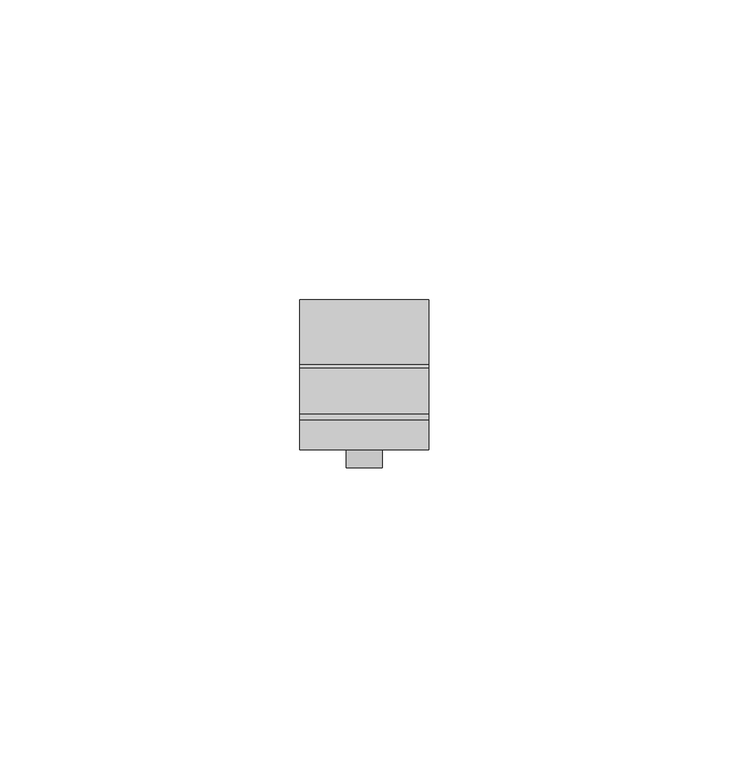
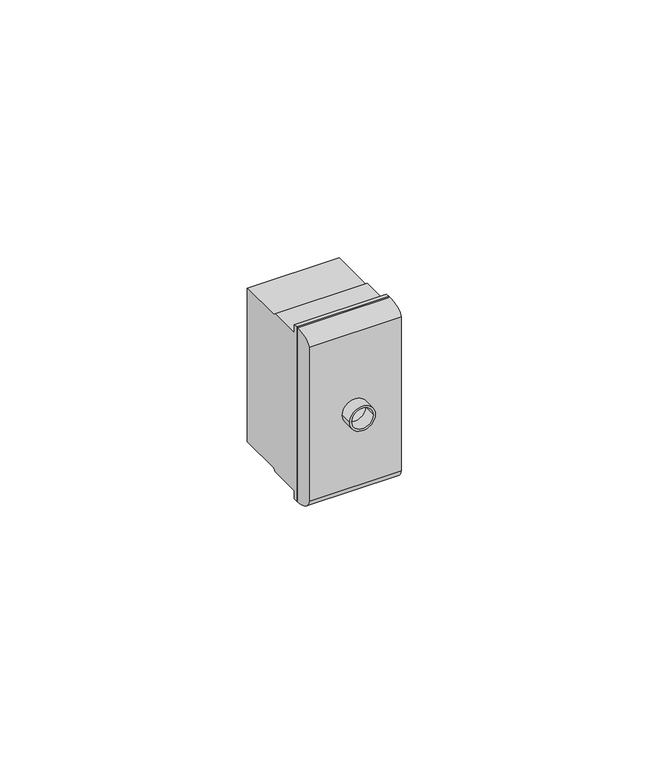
"""IFC4 building model written with IfcOpenShell, lengths in millimetres: proxy geometry, КНС_TVРозетка_DKC : Белый."""

from ifc_helpers import new_model, si_unit, point, frame, origin, origin_2d, place, context, project, spatial, polyline, circle_curve, ellipse_curve, trimmed, segment, composite_curve, outline, extrude, source, transform, mapped, element, save
from ifc_brep_helpers import plane_surface, revolved_surface, extruded_surface, advanced_brep


def electrical_fixtures_b928ce00(model_context):
    return source(origin(), model_context, "Body", "SolidModel", [
        extrude(outline(composite_curve([segment(trimmed(circle_curve(origin_2d(), 3.0), [point((0.0, -3.0))], [point((0.0, 3.0))], False, "CARTESIAN"), True, "CONTINUOUS"), segment(trimmed(circle_curve(origin_2d(), 3.0), [point((0.0, 3.0))], [point((0.0, -3.0))], False, "CARTESIAN"), True, "CONTINUOUS")], self_intersect=False), holes=[composite_curve([segment(trimmed(circle_curve(origin_2d(), 2.4928957), [point((0.0, 2.4928957))], [point((0.0, -2.4928957))], True, "CARTESIAN"), True, "CONTINUOUS"), segment(trimmed(circle_curve(origin_2d(), 2.4928957), [point((0.0, -2.4928957))], [point((0.0, 2.4928957))], True, "CARTESIAN"), True, "CONTINUOUS")], self_intersect=False)]), frame((0.0, -28.0, 0.0), z_axis=(0.0, 1.0, 0.0), x_axis=(0.0, 0.0, 1.0)), (0.0, 0.0, 1.0), 3.0),
        extrude(outline(polyline([(-19.0331367, 21.5), (-19.0331367, 19.5), (-11.287857, 19.5), (-10.7214929, 18.9336359), (0.0, 18.9336359), (0.0, -18.9336359), (-10.7214929, -18.9336359), (-11.287857, -19.5), (-19.0331367, -19.5), (-19.0331367, -21.5), (-20.0, -21.5), (-20.0, 21.5), (-19.0331367, 21.5)])), frame((-10.75, 0.0, 0.0), z_axis=(1.0, 0.0, 0.0), x_axis=(0.0, 1.0, 0.0)), (0.0, 0.0, 1.0), 21.5),
        advanced_brep(
        [(10.75, -20.0, -21.5), (10.75, -20.0, 21.5), (10.75, -25.0, 19.5), (10.75, -25.0, -18.5), (-10.75, -20.0, -21.5), (-10.75, -25.0, -18.5), (-10.75, -25.0, 19.5), (-10.75, -20.0, 21.5), (-2.4928957, -20.0, 0.0), (2.4928957, -20.0, 0.0), (2.4928957, -25.0, 0.0), (-2.4928957, -25.0, 0.0)],
        [
            (0, 1),
            (1, 2, ellipse_curve(frame((10.75, -20.0, 19.5), z_axis=(1.0, 0.0, 0.0), x_axis=(0.0, 1.0, 0.0)), 5.0, 2.0)),
            (2, 3),
            (3, 0, ellipse_curve(frame((10.75, -20.0, -18.5), z_axis=(1.0, 0.0, 0.0), x_axis=(0.0, 1.0, 0.0)), 5.0, 3.0)),
            (4, 5, ellipse_curve(frame((-10.75, -20.0, -18.5), z_axis=(-1.0, 0.0, 0.0), x_axis=(0.0, 1.0, 0.0)), 5.0, 3.0)),
            (5, 6),
            (6, 7, ellipse_curve(frame((-10.75, -20.0, 19.5), z_axis=(-1.0, 0.0, 0.0), x_axis=(0.0, 1.0, 0.0)), 5.0, 2.0)),
            (7, 4),
            (0, 4),
            (7, 1),
            (8, 9, circle_curve(frame((0.0, -20.0, 0.0), z_axis=(0.0, -1.0, 0.0), x_axis=(1.0, 0.0, 0.0)), 2.4928957)),
            (9, 8, circle_curve(frame((0.0, -20.0, 0.0), z_axis=(0.0, -1.0, 0.0), x_axis=(1.0, 0.0, 0.0)), 2.4928957)),
            (6, 2),
            (5, 3),
            (10, 11, circle_curve(frame((0.0, -25.0, 0.0), z_axis=(0.0, 1.0, 0.0), x_axis=(1.0, 0.0, 0.0)), 2.4928957)),
            (11, 10, circle_curve(frame((0.0, -25.0, 0.0), z_axis=(0.0, 1.0, 0.0), x_axis=(1.0, 0.0, 0.0)), 2.4928957)),
            (8, 11),
            (10, 9),
        ],
        [
            plane_surface(frame((10.75, -20.0, 21.5), z_axis=(1.0, 0.0, 0.0), x_axis=(0.0, 0.0, 1.0))),
            plane_surface(frame((-10.75, -20.0, 21.5), z_axis=(-1.0, 0.0, 0.0), x_axis=(0.0, 0.0, -1.0))),
            plane_surface(frame((10.75, -20.0, -21.5), z_axis=(0.0, 1.0, 0.0), x_axis=(-1.0, 0.0, 0.0))),
            extruded_surface(trimmed(ellipse_curve(frame((-32.25, -20.0, 19.5), z_axis=(1.0, 0.0, 0.0), x_axis=(0.0, 1.0, 0.0)), 5.0, 2.0), [point((-32.25, -20.0, 21.5))], [point((-32.25, -25.0, 19.5))], True, "CARTESIAN"), (21.5, 0.0, 0.0), 21.5),
            plane_surface(frame((10.75, -25.0, 19.5), z_axis=(0.0, -1.0, 0.0), x_axis=(-1.0, 0.0, 0.0))),
            extruded_surface(trimmed(ellipse_curve(frame((-32.25, -20.0, -18.5), z_axis=(1.0, 0.0, 0.0), x_axis=(0.0, 1.0, 0.0)), 5.0, 3.0), [point((-32.25, -25.0, -18.5))], [point((-32.25, -20.0, -21.5))], True, "CARTESIAN"), (21.5, 0.0, 0.0), 21.5),
            revolved_surface(polyline([(2.4928957, -25.0, 0.0), (2.4928957, -20.0, 0.0)]), (0.0, -20.0, 0.0), (0.0, -1.0, 0.0)),
        ],
        [
            (0, [[1, 2, 3, 4]]),
            (1, [[5, 6, 7, 8]]),
            (2, [[-1, 9, -8, 10], [11, 12]]),
            (3, [[-2, -10, -7, 13]]),
            (4, [[-3, -13, -6, 14], [15, 16]]),
            (5, [[-4, -14, -5, -9]]),
            (6, [[17, -15, 18, -11]]),
            (6, [[-17, -12, -18, -16]]),
        ],
    ),
    ])


if __name__ == "__main__":
    model = new_model("IFC4")
    model_context = context("Model", 3, world=origin())
    ifc_project = project(units=[si_unit("LENGTHUNIT", "METRE", prefix="MILLI")], contexts=[model_context])
    site = spatial("IfcSite", under=ifc_project)
    building = spatial("IfcBuilding", under=site)
    placement = place(None, origin())
    electrical_fixtures_shape = electrical_fixtures_b928ce00(model_context)
    element("IfcBuildingElementProxy", 1, Name="КНС_TVРозетка_DKC : Белый", ObjectType="КНС_TVРозетка_DKC : Белый", at=placement, inside=building, context=model_context, shape_type="MappedRepresentation", body=[
        mapped(electrical_fixtures_shape, transform((0.0, 0.0, 0.0), x_axis=(1.0, 0.0, 0.0), y_axis=(0.0, 1.0, 0.0), z_axis=(0.0, 0.0, 1.0))),
    ])
    save(model, "model.ifc")
